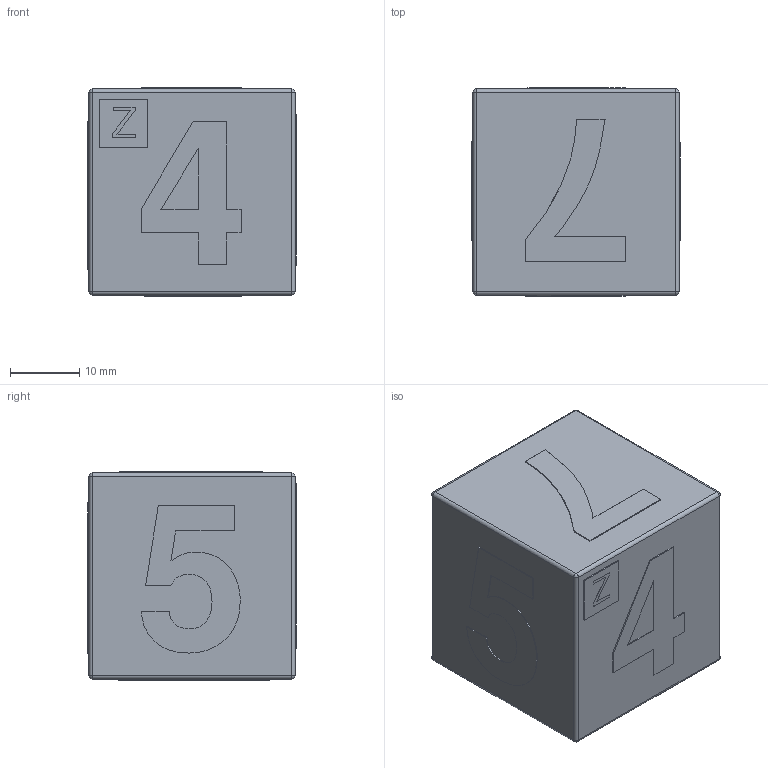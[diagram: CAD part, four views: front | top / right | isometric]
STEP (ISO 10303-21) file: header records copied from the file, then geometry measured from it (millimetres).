
FILE_DESCRIPTION(('Open CASCADE Model'),'2;1');
FILE_NAME('Open CASCADE Shape Model','2025-09-14T20:47:18',('Author'),( 'Open CASCADE'),'Open CASCADE STEP processor 7.8','Open CASCADE 7.8' ,'Unknown');
FILE_SCHEMA(('AUTOMOTIVE_DESIGN { 1 0 10303 214 1 1 1 1 }'));
Length unit declared in the file: millimetre
Products named in the file (20): 9edc713c-91a3-11f0-88d2-1c1b0deae66b; 9edc72f4-91a3-11f0-88d2-1c1b0deae66b; 9edc72f4-91a3-11f0-88d2-1c1b0deae66b_part; 9ee082ea-91a3-11f0-88d2-1c1b0deae66b; 9ee082ea-91a3-11f0-88d2-1c1b0deae66b_part; 9ee49e52-91a3-11f0-88d2-1c1b0deae66b; 9ee49e52-91a3-11f0-88d2-1c1b0deae66b_part; 9ee6687c-91a3-11f0-88d2-1c1b0deae66b; 9ee6687c-91a3-11f0-88d2-1c1b0deae66b_part; 9ee7da9a-91a3-11f0-88d2-1c1b0deae66b; 9ee7da9a-91a3-11f0-88d2-1c1b0deae66b_part; 9ee90e42-91a3-11f0-88d2-1c1b0deae66b; 9ee90e42-91a3-11f0-88d2-1c1b0deae66b_part; 9eeac994-91a3-11f0-88d2-1c1b0deae66b; 9eeac994-91a3-11f0-88d2-1c1b0deae66b_part; 9eee1388-91a3-11f0-88d2-1c1b0deae66b; 9eee1388-91a3-11f0-88d2-1c1b0deae66b_part; 9eee1496-91a3-11f0-88d2-1c1b0deae66b; 9eee1496-91a3-11f0-88d2-1c1b0deae66b_part
Assembly tree (19 placements, depth 4):
  9edc713c-91a3-11f0-88d2-1c1b0deae66b
    9edc713c-91a3-11f0-88d2-1c1b0deae66b
      9edc72f4-91a3-11f0-88d2-1c1b0deae66b
        9edc72f4-91a3-11f0-88d2-1c1b0deae66b_part
      9ee082ea-91a3-11f0-88d2-1c1b0deae66b
        9ee082ea-91a3-11f0-88d2-1c1b0deae66b_part
      9ee49e52-91a3-11f0-88d2-1c1b0deae66b
        9ee49e52-91a3-11f0-88d2-1c1b0deae66b_part
      9ee6687c-91a3-11f0-88d2-1c1b0deae66b
        9ee6687c-91a3-11f0-88d2-1c1b0deae66b_part
      9ee7da9a-91a3-11f0-88d2-1c1b0deae66b
        9ee7da9a-91a3-11f0-88d2-1c1b0deae66b_part
      9ee90e42-91a3-11f0-88d2-1c1b0deae66b
        9ee90e42-91a3-11f0-88d2-1c1b0deae66b_part
      9eeac994-91a3-11f0-88d2-1c1b0deae66b
        9eeac994-91a3-11f0-88d2-1c1b0deae66b_part
      9eee1388-91a3-11f0-88d2-1c1b0deae66b
        9eee1388-91a3-11f0-88d2-1c1b0deae66b_part
      9eee1496-91a3-11f0-88d2-1c1b0deae66b
        9eee1496-91a3-11f0-88d2-1c1b0deae66b_part
Bounding box: 30 x 30 x 30 mm (x, y, z)
Volume: 26331.2 mm3; surface area: 7338.5 mm2
Topology: 9 solids, 9 shells, 213 faces, 569 edges, 366 vertices
Faces by surface type: extrusion 98, plane 95, cylinder 12, sphere 8
Entity records: 14310 total; most frequent: CARTESIAN_POINT 3294, DIRECTION 1651, VECTOR 1333, LINE 1235, ORIENTED_EDGE 1122, PCURVE 1122, DEFINITIONAL_REPRESENTATION 1122, EDGE_CURVE 561
